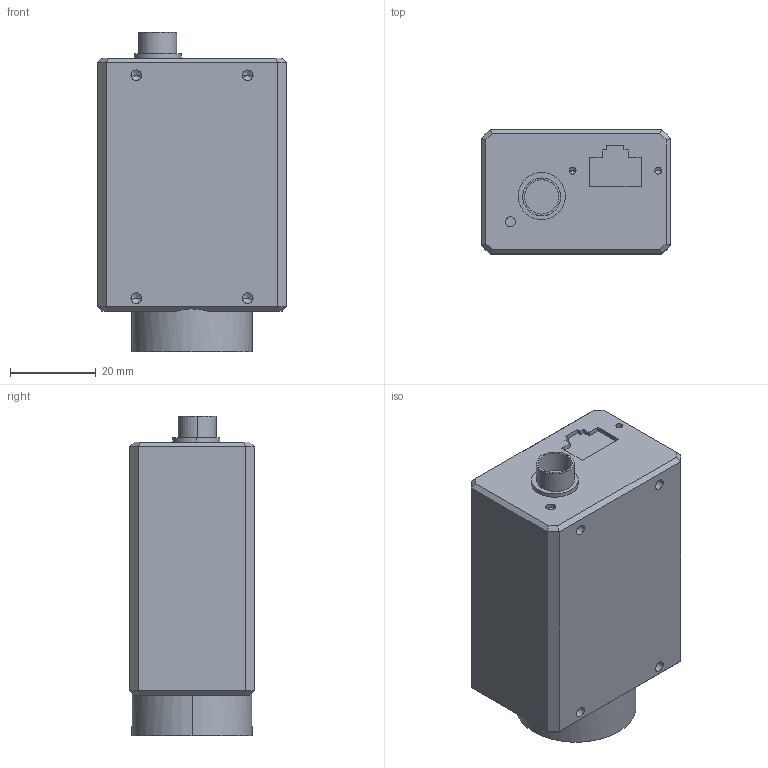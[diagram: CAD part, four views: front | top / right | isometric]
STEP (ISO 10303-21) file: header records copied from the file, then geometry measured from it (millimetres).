
FILE_DESCRIPTION((''),'2;1');
FILE_NAME('MV-CE200-10GMGC','2020-03-11T11:09:11',('wangyijun6'),(''),'CREO PARAMETRIC BY PTC INC, 2017260','CREO PARAMETRIC BY PTC INC, 2017260','');
FILE_SCHEMA(('CONFIG_CONTROL_DESIGN'));
Length unit declared in the file: millimetre
Products named in the file (1): MV-CE200-10GMGC
Bounding box: 44 x 29 x 74.46 mm (x, y, z)
Volume: 76283.2 mm3; surface area: 12850.6 mm2
Topology: 1 solids, 1 shells, 90 faces, 214 edges, 124 vertices
Faces by surface type: plane 46, cylinder 28, cone 16
Entity records: 2496 total; most frequent: DIRECTION 434, CARTESIAN_POINT 426, ORIENTED_EDGE 396, EDGE_CURVE 198, AXIS2_PLACEMENT_3D 148, VECTOR 138, LINE 138, VERTEX_POINT 124
